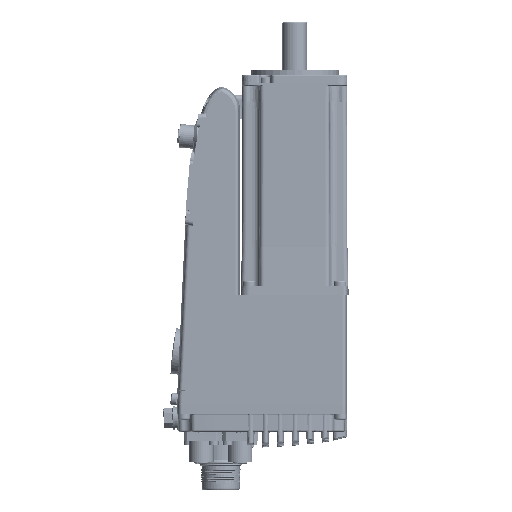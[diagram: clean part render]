
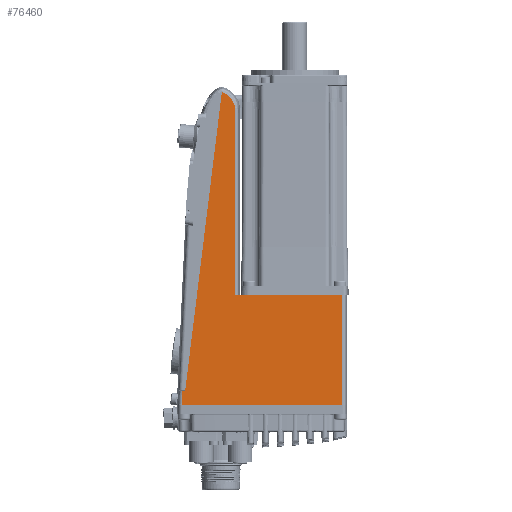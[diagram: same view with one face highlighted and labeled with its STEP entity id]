
A CAD part, left-side view. The second image highlights one B-rep face of the part: STEP entity #76460.
In plain terms, the highlighted planar face has unit normal (-1, 0, 0).
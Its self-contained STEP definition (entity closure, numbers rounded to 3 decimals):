
#7223=B_SPLINE_CURVE_WITH_KNOTS('',3,(#135372,#135373,#135374,#135375,#135376,
#135377,#135378,#135379,#135380,#135381,#135382,#135383,#135384,#135385,
#135386),.UNSPECIFIED.,.F.,.F.,(4,1,1,1,1,1,1,1,1,1,1,1,4),(0.741,
0.75,0.751,0.781,0.813,0.844,0.854,0.875,0.879,
0.906,0.938,0.969,1.),.UNSPECIFIED.);
#7224=B_SPLINE_CURVE_WITH_KNOTS('',3,(#135392,#135393,#135394,#135395),
 .UNSPECIFIED.,.F.,.F.,(4,4),(0.,1.),
 .UNSPECIFIED.);
#18645=ORIENTED_EDGE('',*,*,#30126,.F.);
#18646=ORIENTED_EDGE('',*,*,#30010,.T.);
#18647=ORIENTED_EDGE('',*,*,#30127,.T.);
#18648=ORIENTED_EDGE('',*,*,#30128,.F.);
#18649=ORIENTED_EDGE('',*,*,#29972,.F.);
#18650=ORIENTED_EDGE('',*,*,#30129,.T.);
#18651=ORIENTED_EDGE('',*,*,#30048,.F.);
#18652=ORIENTED_EDGE('',*,*,#30130,.T.);
#29972=EDGE_CURVE('',#36580,#36581,#40494,.T.);
#30010=EDGE_CURVE('',#36613,#36612,#40521,.T.);
#30048=EDGE_CURVE('',#36644,#36645,#40545,.T.);
#30126=EDGE_CURVE('',#36613,#36697,#7223,.T.);
#30127=EDGE_CURVE('',#36612,#36698,#40580,.T.);
#30128=EDGE_CURVE('',#36581,#36698,#40581,.F.);
#30129=EDGE_CURVE('',#36580,#36645,#40582,.T.);
#30130=EDGE_CURVE('',#36644,#36697,#7224,.T.);
#36580=VERTEX_POINT('',#134393);
#36581=VERTEX_POINT('',#134395);
#36612=VERTEX_POINT('',#134474);
#36613=VERTEX_POINT('',#134476);
#36644=VERTEX_POINT('',#134565);
#36645=VERTEX_POINT('',#134567);
#36697=VERTEX_POINT('',#135387);
#36698=VERTEX_POINT('',#135389);
#40494=LINE('',#134394,#44096);
#40521=LINE('',#134475,#44123);
#40545=LINE('',#134566,#44147);
#40580=LINE('',#135388,#44182);
#40581=LINE('',#135390,#44183);
#40582=LINE('',#135391,#44184);
#44096=VECTOR('',#95031,1000.);
#44123=VECTOR('',#95086,1000.);
#44147=VECTOR('',#95128,1000.);
#44182=VECTOR('',#95229,1000.);
#44183=VECTOR('',#95230,1000.);
#44184=VECTOR('',#95231,1000.);
#48763=EDGE_LOOP('',(#18645,#18646,#18647,#18648,#18649,#18650,#18651,#18652));
#53363=FACE_BOUND('',#48763,.T.);
#55497=PLANE('',#82319);
#76460=ADVANCED_FACE('',(#53363),#55497,.T.);
#82319=AXIS2_PLACEMENT_3D('',#135371,#95227,#95228);
#95031=DIRECTION('',(0.,1.,0.));
#95086=DIRECTION('',(0.,0.122,-0.993));
#95128=DIRECTION('',(0.,-1.,0.));
#95227=DIRECTION('',(-1.,0.,0.));
#95228=DIRECTION('',(0.,1.,0.));
#95229=DIRECTION('',(0.,1.,-0.009));
#95230=DIRECTION('',(0.,0.047,-0.999));
#95231=DIRECTION('',(0.,0.,1.));
#134393=CARTESIAN_POINT('',(-30.,-27.131,-62.8));
#134394=CARTESIAN_POINT('',(-30.,64.179,-62.8));
#134395=CARTESIAN_POINT('',(-30.,64.131,-62.8));
#134474=CARTESIAN_POINT('',(-30.,62.175,-54.46));
#134475=CARTESIAN_POINT('',(-30.,63.335,-63.904));
#134476=CARTESIAN_POINT('',(-30.,41.351,115.14));
#134565=CARTESIAN_POINT('',(-30.,33.84,0.));
#134566=CARTESIAN_POINT('',(-30.,33.865,0.));
#134567=CARTESIAN_POINT('',(-30.,-27.131,0.));
#135371=CARTESIAN_POINT('',(-30.,64.179,-63.8));
#135372=CARTESIAN_POINT('',(-30.,41.351,115.14));
#135373=CARTESIAN_POINT('',(-30.,41.278,115.139));
#135374=CARTESIAN_POINT('',(-30.,41.199,115.131));
#135375=CARTESIAN_POINT('',(-30.,40.85,115.076));
#135376=CARTESIAN_POINT('',(-30.,40.176,114.876));
#135377=CARTESIAN_POINT('',(-30.,38.714,114.021));
#135378=CARTESIAN_POINT('',(-30.,37.598,113.083));
#135379=CARTESIAN_POINT('',(-30.,36.76,112.255));
#135380=CARTESIAN_POINT('',(-30.,36.354,111.8));
#135381=CARTESIAN_POINT('',(-30.,35.788,111.093));
#135382=CARTESIAN_POINT('',(-30.,35.161,110.194));
#135383=CARTESIAN_POINT('',(-30.,34.464,108.767));
#135384=CARTESIAN_POINT('',(-30.,33.974,107.039));
#135385=CARTESIAN_POINT('',(-30.,33.865,105.634));
#135386=CARTESIAN_POINT('',(-30.,33.865,104.865));
#135387=CARTESIAN_POINT('',(-30.,33.865,104.865));
#135388=CARTESIAN_POINT('',(-30.,64.26,-54.478));
#135389=CARTESIAN_POINT('',(-30.,63.739,-54.473));
#135390=CARTESIAN_POINT('',(-30.,64.053,-61.15));
#135391=CARTESIAN_POINT('',(-30.,-27.131,-62.8));
#135392=CARTESIAN_POINT('',(-30.,33.865,0.));
#135393=CARTESIAN_POINT('',(-30.,33.865,34.955));
#135394=CARTESIAN_POINT('',(-30.,33.865,69.91));
#135395=CARTESIAN_POINT('',(-30.,33.865,104.865));
